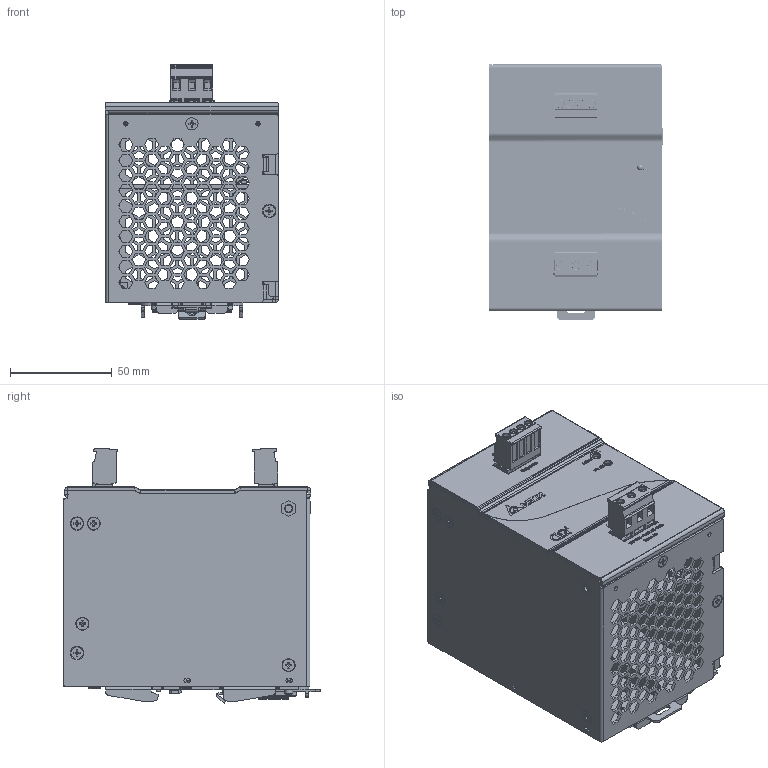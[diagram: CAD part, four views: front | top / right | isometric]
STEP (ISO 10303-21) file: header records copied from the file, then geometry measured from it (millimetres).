
FILE_DESCRIPTION((''),'2;1');
FILE_NAME('DRP048V240W1BA_ASM','2012-05-08T',('Manop.Pr'),(''),'PRO/ENGINEER BY PARAMETRIC TECHNOLOGY CORPORATION, 2010180','PRO/ENGINEER BY PARAMETRIC TECHNOLOGY CORPORATION, 2010180','');
FILE_SCHEMA(('CONFIG_CONTROL_DESIGN','SHAPE_APPEARANCE_LAYERS_GROUPS'));
Products named in the file (43): 330307940202; 330307950101; 330307950101_A_STUD_6-32; 330307950101_ASM; 330307960000; 324467800000; 326354550101; 326820910000; 3461303000; 3460088100; 3462026200; ASSY_LATCH_50X100_ASM; 2958045106_PWB; 2958045106_PWB_LAYOUT1; 2958045106_PWB_LAYOUT2; 346142080000; EE_VR550_0604102205; 2968118803_DCT-1188; 2968118803_DCT-1188_LAYOUT; 3070487546; 3051627246; EE_LED_2300074506; ASSY_DCT-1188_ASM; ASSY_PWB_EOE12010359_ASM; 2968118603_DCT-1186; 324467780000; 2968118703_DCT-1187; 3071616046; 3050252046; ASSY_DCT-1187_ASM; DCT-1189-08252010; 307018003400; ASSY_DCT-1189_ASM; ASSY_DCT-1186_ASM; 334680480000; 324467790000; 310000040000; 310000060000; 310330060000; 310503910000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
Assembly tree (64 placements, depth 4):
  DRP048V240W1BA_ASM
    330307940202
    330307950101_ASM
      330307950101
      330307950101_A_STUD_6-32
    330307960000
    324467800000
    326354550101
    326820910000
    ASSY_LATCH_50X100_ASM
      3461303000
      3460088100
      3462026200
    ASSY_PWB_EOE12010359_ASM
      2958045106_PWB
      2958045106_PWB_LAYOUT1
      2958045106_PWB_LAYOUT2
      346142080000  x4
      EE_VR550_0604102205
      ASSY_DCT-1188_ASM
        2968118803_DCT-1188
        2968118803_DCT-1188_LAYOUT
        3070487546
        3051627246
        EE_LED_2300074506
    ASSY_DCT-1186_ASM
      2968118603_DCT-1186
      346142080000  x3
      324467780000
      ASSY_DCT-1187_ASM
        2968118703_DCT-1187
        3071616046
        3050252046
      ASSY_DCT-1189_ASM
        DCT-1189-08252010
        307018003400
    334680480000
    324467790000
    310000040000
    310000060000  x12
    310330060000
    310503910000  x3
    3100020600  x4
    3202315200
Bounding box: 85.1 x 126 x 125.22 mm (x, y, z)
Volume: 166698 mm3; surface area: 305743.8 mm2
Topology: 60 solids, 60 shells, 6676 faces, 17639 edges, 11281 vertices
Faces by surface type: plane 4472, cylinder 1002, extrusion 638, cone 263, bspline 183, torus 106, sphere 12
Entity records: 248123 total; most frequent: CARTESIAN_POINT 50097, ORIENTED_EDGE 31662, DIRECTION 27708, EDGE_CURVE 15831, PRESENTATION_STYLE_ASSIGNMENT 15578, STYLED_ITEM 15259, CURVE_STYLE 15169, VECTOR 12720
